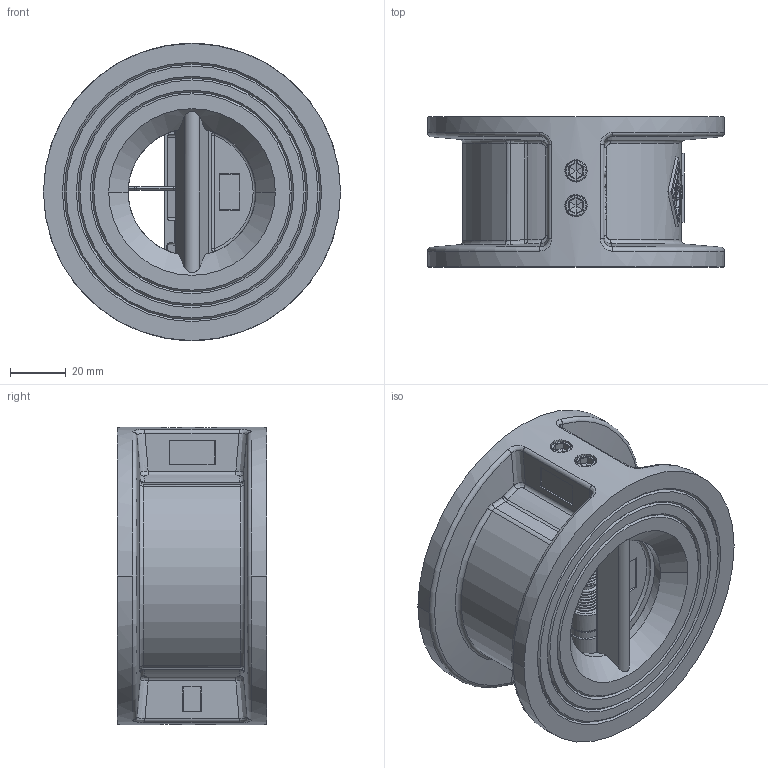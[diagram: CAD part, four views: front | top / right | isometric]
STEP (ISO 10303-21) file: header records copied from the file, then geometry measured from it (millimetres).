
FILE_DESCRIPTION(('STEP AP214'),'1');
FILE_NAME('922dh77xb50','2023-09-15T08:53:02',('YLS'),(' '),'Spatial InterOp 3D',' ',' ');
FILE_SCHEMA(('automotive_design'));
Length unit declared in the file: millimetre
Products named in the file (11): 922dh77xb50_asm.1; 922DH1-1-01-0-T_AF0; 922DHBZ-01-0-T_AF0; 922DHB-01-0-T_AF0; 922DHB-01-0-T_AF1; 922DBDQ-01-0-T_AF1; 922DQ-01-0-T_AF1; 922MFDB50-01-0-T_AF1; 922N6JPLZ-01-0-T; 922TH102X7X9-1; 922DH1-01-0-T
Assembly tree (11 placements, depth 2):
  922dh77xb50_asm.1
    922DH1-1-01-0-T_AF0
    922DHBZ-01-0-T_AF0
    922DHB-01-0-T_AF0
    922DHB-01-0-T_AF1
    922DBDQ-01-0-T_AF1
    922DQ-01-0-T_AF1
    922MFDB50-01-0-T_AF1
    922N6JPLZ-01-0-T
    922TH102X7X9-1  x2
    922DH1-01-0-T
Bounding box: 107 x 54 x 107 mm (x, y, z)
Volume: 388739.5 mm3; surface area: 121838.3 mm2
Topology: 20 solids, 28 shells, 1410 faces, 3506 edges, 2202 vertices
Faces by surface type: bspline 488, plane 368, cylinder 314, cone 106, extrusion 72, torus 46, sphere 16
Entity records: 102777 total; most frequent: CARTESIAN_POINT 45722, ORIENTED_EDGE 6816, STYLED_ITEM 4793, PRESENTATION_STYLE_ASSIGNMENT 4793, COLOUR_RGB 4793, DIRECTION 4326, EDGE_CURVE 3424, CURVE_STYLE 3392
